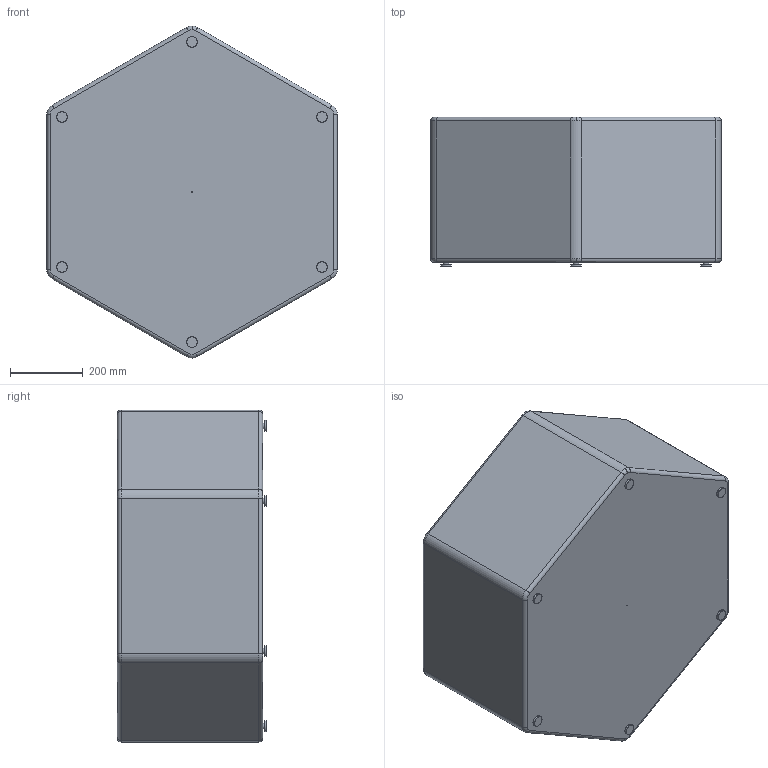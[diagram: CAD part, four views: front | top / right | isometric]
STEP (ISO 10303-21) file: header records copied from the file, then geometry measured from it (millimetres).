
FILE_DESCRIPTION (( 'STEP AP203' ), '1' );
FILE_NAME ('HEXA BENCH.STEP', '2018-11-09T12:54:01', ( '' ), ( '' ), 'SwSTEP 2.0', 'SolidWorks 2017', '' );
FILE_SCHEMA (( 'CONFIG_CONTROL_DESIGN' ));
Length unit declared in the file: millimetre
Products named in the file (1): HEXA BENCH
Bounding box: 800 x 411 x 914.48 mm (x, y, z)
Volume: 221499576 mm3; surface area: 2198040.6 mm2
Topology: 7 solids, 7 shells, 110 faces, 219 edges, 130 vertices
Faces by surface type: cylinder 45, torus 38, plane 27
Entity records: 2940 total; most frequent: DIRECTION 597, CARTESIAN_POINT 460, ORIENTED_EDGE 438, AXIS2_PLACEMENT_3D 267, EDGE_CURVE 219, CIRCLE 156, VERTEX_POINT 130, EDGE_LOOP 117
